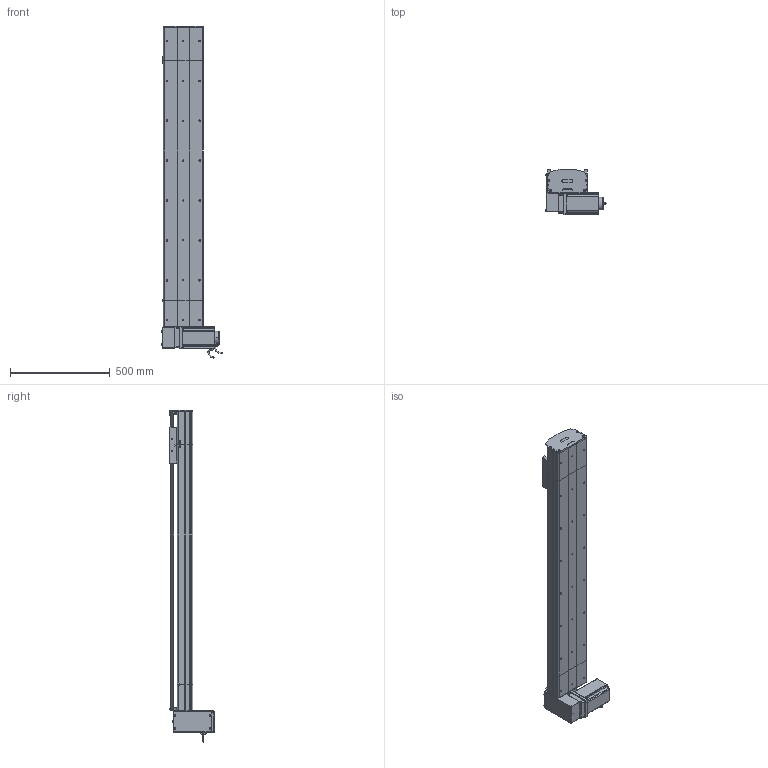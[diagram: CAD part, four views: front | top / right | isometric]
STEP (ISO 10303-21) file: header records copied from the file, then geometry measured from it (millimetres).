
FILE_DESCRIPTION (( 'STEP AP214' ), '1' );
FILE_NAME ('D20 TBH RU S1200.STEP', '2010-07-01T07:11:23', ( 'Conseil Régional Haute-Normandie' ), ( 'Conseil Régional Haute-Normandie' ), 'SwSTEP 2.0', 'SolidWorks 2010', '' );
FILE_SCHEMA (( 'AUTOMOTIVE_DESIGN' ));
Length unit declared in the file: millimetre
Products named in the file (40): guide D20B; head RU_Default; rail tail D20; corpl head D20_Default; Couroie tail D20_Default; vis M5 L8 90°_Default; tete d''axe poulie D20B; couvercle tail D20_Default; Chariot D20B; chariot D20B_Default; vis M5 L12_Default; vis M8 L12_Default; clavette; Conecteur_Default; Conecteur2_Default; codeur 110BLDC170A-630x; corps 110BLDC170A-630x; avant 110BLDC170A-630x; Renvoi RU D20_Default; vis M5 L25_Default; vis M5 L5_Default; Moteur motionking 110BLDC170A-640x; vis M5 L70_Default; Plaque racord D20LH_Default; cache D20_Default; cache arbre D20_Default; couroie_Default; plaque de  bout head D20B RU_Default; poulie head D20_Default; couvercle head D20_Default; rail head D20; corp D20 S1200_Default; Course B L1200_Default; D20 TBH RU S1200; tail D20_Default; rail + couroie  D20 S1200; couvercle D20 S1200_Default; plaque de  bout tail D20_Default; poulie tail D20_Default; corpl tail D20_Default
Assembly tree (71 placements, depth 4):
  D20 TBH RU S1200
    Course B L1200_Default
      couvercle D20 S1200_Default
      corp D20 S1200_Default
      rail + couroie  D20 S1200
    chariot D20B_Default
      vis M5 L12_Default  x4
      guide D20B  x2
      Chariot D20B
    head RU_Default
      vis M5 L12_Default  x10
      vis M8 L12_Default  x4
      poulie head D20_Default
      vis M5 L5_Default  x4
      corpl head D20_Default
      Moteur motionking 110BLDC170A-640x
        corps 110BLDC170A-630x
        avant 110BLDC170A-630x
        clavette
        codeur 110BLDC170A-630x
        Conecteur_Default
        Conecteur2_Default
      vis M5 L70_Default  x4
      cache D20_Default  x2
      Renvoi RU D20_Default
      Plaque racord D20LH_Default
      plaque de  bout head D20B RU_Default
      couvercle head D20_Default
      rail head D20
      vis M5 L25_Default  x2
      couroie_Default
      cache arbre D20_Default
    tail D20_Default
      vis M5 L8 90°_Default  x2
      vis M5 L12_Default  x4
      couvercle tail D20_Default
      corpl tail D20_Default
      vis M5 L25_Default  x2
      rail tail D20
      plaque de  bout tail D20_Default
      poulie tail D20_Default
      Couroie tail D20_Default
      tete d''axe poulie D20B
Bounding box: 304.2 x 223.2 x 1665 mm (x, y, z)
Volume: 14791004.5 mm3; surface area: 3448595.8 mm2
Topology: 95 solids, 95 shells, 2709 faces, 6795 edges, 4381 vertices
Faces by surface type: plane 1614, cylinder 771, bspline 136, cone 99, torus 89
Entity records: 84318 total; most frequent: CARTESIAN_POINT 26763, ORIENTED_EDGE 10246, DIRECTION 9720, EDGE_CURVE 5123, VECTOR 3372, LINE 3372, VERTEX_POINT 3367, AXIS2_PLACEMENT_3D 3174
